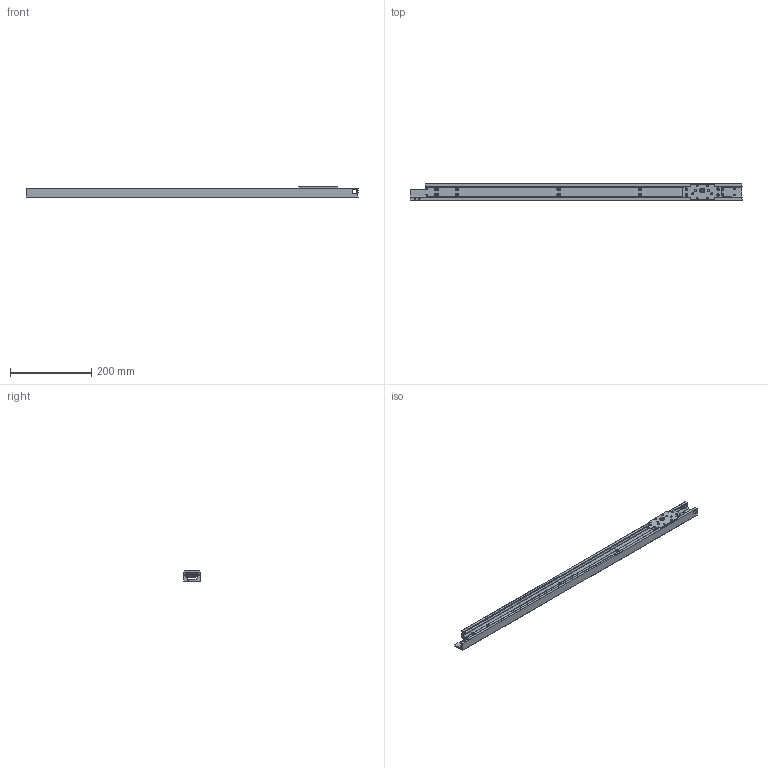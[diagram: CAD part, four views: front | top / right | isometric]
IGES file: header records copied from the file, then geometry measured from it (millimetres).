
Global section: file name:  ; native system: Kubotek KeyCreator; preprocessor: KCM Version 1.1.28; author: KeyCreator•p{ž; organization: Self; date: 20161130.235809; units: millimetre
Bounding box: 815 x 40 x 25.03 mm (x, y, z)
Surface area: 171951.4 mm2 (no closed solid volume)
Topology: 0 solids, 0 shells, 443 faces, 3237 edges, 3237 vertices
Faces by surface type: bspline 443
